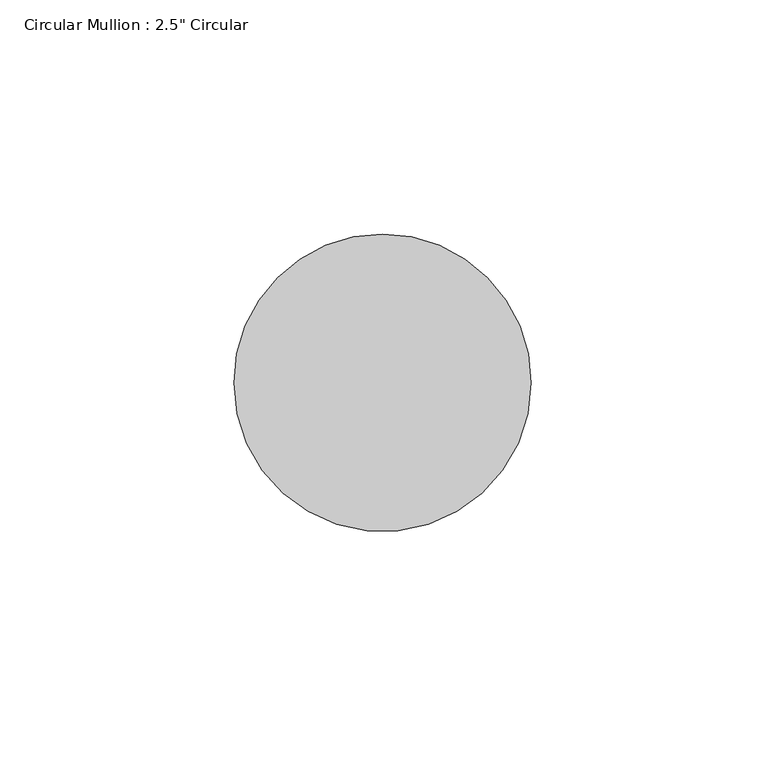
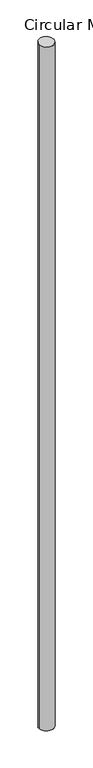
"""IFC4 building model written with IfcOpenShell, lengths in millimetres: member geometry."""

import ifcopenshell
import ifcopenshell.guid

model = None  # the IFC model being written
_history = None  # IfcOwnerHistory: only IFC2X3 demands one
_inside = {}  # id of a spatial element -> (the spatial element, [elements in it])
_under = {}  # id of a project, library or spatial element -> (it, [spatial elements below it])
_declared = {}  # id of a project -> (the project, [libraries it declares])
_typed = {}  # id of a type object -> (the type object, [elements of that type])
_made_of = {}  # id of a material, layer set ... -> (it, [elements and type objects made of it])


def new_model(schema):
    """Start an empty IFC model of exactly this schema.

    Asked for "IFC4X3", IfcOpenShell would pick the latest addendum, in which some entities
    have other attributes; the version numbers below select the first issue.
    IFC2X3 requires an IfcOwnerHistory on every rooted entity: one is made here for all.
    """
    global model, _history
    if schema == "IFC4X3":
        model = ifcopenshell.file(schema_version=(4, 3, 0, 0))
    else:
        model = ifcopenshell.file(schema=schema)
    _inside.clear()
    _under.clear()
    _declared.clear()
    _typed.clear()
    _made_of.clear()
    _history = None
    if model.schema == "IFC2X3":
        org = make("IfcOrganization", Name="unknown")
        user = make(
            "IfcPersonAndOrganization",
            ThePerson=make("IfcPerson", FamilyName="unknown"),
            TheOrganization=org,
        )
        app = make(
            "IfcApplication",
            ApplicationDeveloper=org,
            Version="unknown",
            ApplicationFullName="unknown",
            ApplicationIdentifier="unknown",
        )
        _history = make(
            "IfcOwnerHistory",
            OwningUser=user,
            OwningApplication=app,
            ChangeAction="ADDED",
            CreationDate=0,
        )
    return model


def make(cls, **values):
    """One entity of the class cls with the attributes given. An attribute that is None is left unset."""
    return model.create_entity(
        cls, **{name: value for name, value in values.items() if value is not None}
    )


def rooted(cls, **values):
    """An entity with a GlobalId (a new one), such as an element, a storey or a relation."""
    return make(cls, GlobalId=ifcopenshell.guid.new(), OwnerHistory=_history, **values)


def si_unit(unit_type, name, prefix=None):
    """IfcSIUnit, for example si_unit("LENGTHUNIT", "METRE", prefix="MILLI")."""
    return make("IfcSIUnit", UnitType=unit_type, Prefix=prefix, Name=name)


def assignment(units):
    """IfcUnitAssignment: the units of a project."""
    return None if units is None else make("IfcUnitAssignment", Units=units)


def point(xyz):
    """IfcCartesianPoint."""
    return None if xyz is None else make("IfcCartesianPoint", Coordinates=xyz)


def direction(xyz):
    """IfcDirection."""
    return None if xyz is None else make("IfcDirection", DirectionRatios=xyz)


def frame(location, z_axis=None, x_axis=None):
    """IfcAxis2Placement3D, a coordinate frame: its origin and axes. An axis left out is left unset."""
    return make(
        "IfcAxis2Placement3D",
        Location=point(location),
        Axis=direction(z_axis),
        RefDirection=direction(x_axis),
    )


def origin():
    """The frame at (0, 0, 0) with its axes left unset."""
    return frame((0.0, 0.0, 0.0))


def place(relative_to, where):
    """IfcLocalPlacement: puts the frame where relative to a parent placement (None: the world)."""
    return make(
        "IfcLocalPlacement", PlacementRelTo=relative_to, RelativePlacement=where
    )


def context(
    kind, dimensions, precision=None, world=None, true_north=None, identifier=None
):
    """IfcGeometricRepresentationContext, for example the 3D "Model" context."""
    return make(
        "IfcGeometricRepresentationContext",
        ContextIdentifier=identifier,
        ContextType=kind,
        CoordinateSpaceDimension=dimensions,
        Precision=precision,
        WorldCoordinateSystem=world,
        TrueNorth=true_north,
    )


def project(units=None, contexts=None):
    """IfcProject with its units and contexts."""
    return rooted(
        "IfcProject",
        Name="project",
        RepresentationContexts=contexts,
        UnitsInContext=assignment(units),
    )


def spatial(cls, under=None, at=None, **own):
    """A site, building, storey or space (cls), placed at a placement, below another one or the project."""
    s = rooted(cls, ObjectPlacement=at, **own)
    if under is not None:
        _under.setdefault(under.id(), (under, []))[1].append(s)
    return s


def ellipse_curve(where, semi_axis1, semi_axis2):
    """IfcEllipse in the frame where."""
    return make(
        "IfcEllipse", Position=where, SemiAxis1=semi_axis1, SemiAxis2=semi_axis2
    )


def shape(context_of_items, identifier, shape_type, items):
    """IfcShapeRepresentation: the items that make up one representation, for example the "Body"."""
    return make(
        "IfcShapeRepresentation",
        ContextOfItems=context_of_items,
        RepresentationIdentifier=identifier,
        RepresentationType=shape_type,
        Items=items,
    )


def source(mapping_origin, context_of_items, identifier, shape_type, items):
    """IfcRepresentationMap: a shape defined once, which mapped items show again and again."""
    return make(
        "IfcRepresentationMap",
        MappingOrigin=mapping_origin,
        MappedRepresentation=shape(context_of_items, identifier, shape_type, items),
    )


def transform(
    local_origin,
    x_axis=None,
    y_axis=None,
    z_axis=None,
    scale=None,
    scale2=None,
    scale3=None,
    uniform=True,
):
    """IfcCartesianTransformationOperator3D, or its non-uniform kind. x_axis, y_axis, z_axis: its Axis1, 2, 3."""
    if uniform:
        return make(
            "IfcCartesianTransformationOperator3D",
            Axis1=direction(x_axis),
            Axis2=direction(y_axis),
            LocalOrigin=point(local_origin),
            Scale=scale,
            Axis3=direction(z_axis),
        )
    return make(
        "IfcCartesianTransformationOperator3DnonUniform",
        Axis1=direction(x_axis),
        Axis2=direction(y_axis),
        LocalOrigin=point(local_origin),
        Scale=scale,
        Axis3=direction(z_axis),
        Scale2=scale2,
        Scale3=scale3,
    )


def mapped(mapping_source, mapping_target):
    """IfcMappedItem: shows the shape of a source again, moved by a transform."""
    return make(
        "IfcMappedItem", MappingSource=mapping_source, MappingTarget=mapping_target
    )


def made_of(thing, what):
    """Note that an element or type object is made of a material, layer set ...; save() writes the relation."""
    if what is not None:
        _made_of.setdefault(what.id(), (what, []))[1].append(thing)
    return thing


def element(
    cls,
    number,
    at=None,
    inside=None,
    cuts=None,
    type_object=None,
    material=None,
    context=None,
    identifier="Body",
    shape_type=None,
    held_by="IfcProductDefinitionShape",
    body=None,
    shapes=None,
    **own,
):
    """One element of the class cls, such as IfcWall. Its Tag is "e" and its number.

    at: its placement. inside: the storey or other place that contains it. cuts: it is an
    opening in that element (IfcRelVoidsElement). A single representation is given by context,
    identifier, shape_type and body (its items); several are given by shapes. held_by: the class
    of the entity that holds the representations. save() writes the other relations.
    """
    e = rooted(cls, Tag="e%d" % number, ObjectPlacement=at, **own)
    if body is not None:
        shapes = [shape(context, identifier, shape_type, body)]
    if shapes is not None:
        e.Representation = make(held_by, Representations=shapes)
    if inside is not None:
        _inside.setdefault(inside.id(), (inside, []))[1].append(e)
    if cuts is not None:
        rooted(
            "IfcRelVoidsElement", RelatingBuildingElement=cuts, RelatedOpeningElement=e
        )
    if type_object is not None:
        _typed.setdefault(type_object.id(), (type_object, []))[1].append(e)
    return made_of(e, material)


def aggregate(whole, parts):
    """IfcRelAggregates: a whole, such as a stair, and the parts it consists of."""
    return rooted("IfcRelAggregates", RelatingObject=whole, RelatedObjects=parts)


def save(model, path):
    """Write the relations noted so far, then the file.

    IfcRelAggregates (storeys below a building ...), IfcRelContainedInSpatialStructure (elements
    in a storey), IfcRelDefinesByType, IfcRelAssociatesMaterial and IfcRelDeclares: one each for
    every whole, place, type object, material and project.
    """
    for whole, parts in _under.values():
        aggregate(whole, parts)
    for where, things in _inside.values():
        rooted(
            "IfcRelContainedInSpatialStructure",
            RelatedElements=things,
            RelatingStructure=where,
        )
    for kind, things in _typed.values():
        rooted("IfcRelDefinesByType", RelatedObjects=things, RelatingType=kind)
    for what, things in _made_of.values():
        rooted("IfcRelAssociatesMaterial", RelatedObjects=things, RelatingMaterial=what)
    for by, libraries in _declared.values():
        rooted("IfcRelDeclares", RelatingContext=by, RelatedDefinitions=libraries)
    model.write(path)


def plane_surface(at):
    """IfcPlane: the flat surface through the origin of the frame at, square to its z axis."""
    return make("IfcPlane", Position=at)


def cylinder_surface(at, radius):
    """IfcCylindricalSurface: all points at the distance radius from the z axis of the frame at."""
    return make("IfcCylindricalSurface", Position=at, Radius=radius)


def advanced_brep(points, edges, surfaces, faces):
    """IfcAdvancedBrep: a solid bounded by faces that lie on surfaces and meet in shared edges.

    An edge is (start, end): straight between two places in points (the first is 0);
    or (start, end, curve); or (start, end, curve, False) where it runs against its curve.
    A face is (place in surfaces, loops), or (place, loops, False) where it looks against
    its surface's normal. A loop lists edges by number (the first is 1), with a minus sign
    where the edge is run from its end to its start. The first loop is the outer one.
    """
    corners = [point(p) for p in points]
    vertices = [make("IfcVertexPoint", VertexGeometry=c) for c in corners]
    made = []
    for start, end, *more in edges:
        made.append(
            make(
                "IfcEdgeCurve",
                EdgeStart=vertices[start],
                EdgeEnd=vertices[end],
                EdgeGeometry=more[0] if more else make("IfcPolyline", Points=[corners[start], corners[end]]),
                SameSense=more[1] if len(more) > 1 else True,
            )
        )
    hull = []
    for where, loops, *sense in faces:
        bounds = []
        for j, loop in enumerate(loops):
            ring = [make("IfcOrientedEdge", EdgeElement=made[abs(k) - 1], Orientation=k > 0) for k in loop]
            bounds.append(
                make(
                    "IfcFaceOuterBound" if j == 0 else "IfcFaceBound",
                    Bound=make("IfcEdgeLoop", EdgeList=ring),
                    Orientation=True,
                )
            )
        hull.append(make("IfcAdvancedFace", Bounds=bounds, FaceSurface=surfaces[where], SameSense=sense[0] if sense else True))
    return make("IfcAdvancedBrep", Outer=make("IfcClosedShell", CfsFaces=hull))


def member_7a5e62d4(model_context):
    return source(origin(), model_context, "Body", "AdvancedBrep", [
        advanced_brep(
        [(-63.5, 0.0, -0.3874505), (0.0, 0.0, 0.0), (0.0, 0.0, -3089.9696968), (-63.5, 0.0, -3089.7729318)],
        [
            (0, 1, ellipse_curve(frame((-31.75, 0.0, -0.1937252), z_axis=(0.006093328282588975, 0.05163815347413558, -0.9986472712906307), x_axis=(0.11702893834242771, 0.9917664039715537, 0.05199641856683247)), 31.7930073, 31.75)),
            (1, 2),
            (2, 3, ellipse_curve(frame((-31.75, 0.0, -3089.8713143), z_axis=(0.003095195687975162, 0.04718472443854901, 0.9988813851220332), x_axis=(-0.06538350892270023, -0.9967391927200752, 0.04728613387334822)), 31.7855558, 31.75)),
            (3, 0),
            (1, 0, ellipse_curve(frame((-31.75, 0.0, -0.1937252), z_axis=(0.006093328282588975, 0.05163815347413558, -0.9986472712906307), x_axis=(0.11702893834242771, 0.9917664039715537, 0.05199641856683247)), 31.7930073, 31.75)),
            (3, 2, ellipse_curve(frame((-31.75, 0.0, -3089.8713143), z_axis=(0.003095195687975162, 0.04718472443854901, 0.9988813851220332), x_axis=(-0.06538350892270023, -0.9967391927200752, 0.04728613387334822)), 31.7855558, 31.75)),
        ],
        [
            cylinder_surface(frame((-31.75, 0.0, 0.0), z_axis=(0.0, 0.0, 1.0), x_axis=(1.0, 0.0, 0.0)), 31.75),
            plane_surface(frame((302.6998707, -35.7187382, 0.0), z_axis=(-0.006093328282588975, -0.05163815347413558, 0.9986472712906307), x_axis=(-0.11702893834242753, -0.9917664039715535, -0.05199641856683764))),
            plane_surface(frame((304.1463285, -19.9512112, -3089.9696968), z_axis=(-0.003095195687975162, -0.04718472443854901, -0.9988813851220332), x_axis=(-0.06538350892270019, -0.9967391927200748, 0.047286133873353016))),
        ],
        [
            (0, [[1, 2, 3, 4]]),
            (0, [[5, -4, 6, -2]]),
            (1, [[-1, -5]]),
            (2, [[-6, -3]]),
        ],
    ),
    ])


if __name__ == "__main__":
    model = new_model("IFC4")
    model_context = context("Model", 3, world=origin())
    ifc_project = project(units=[si_unit("LENGTHUNIT", "METRE", prefix="MILLI")], contexts=[model_context])
    site = spatial("IfcSite", under=ifc_project)
    building = spatial("IfcBuilding", under=site)
    placement = place(None, origin())
    member_shape = member_7a5e62d4(model_context)
    element("IfcMember", 1, ObjectType="Circular Mullion : 2.5\" Circular", at=placement, inside=building, context=model_context, shape_type="MappedRepresentation", body=[
        mapped(member_shape, transform((0.0, 0.0, 0.0), x_axis=(1.0, 0.0, 0.0), y_axis=(0.0, 1.0, 0.0), z_axis=(0.0, 0.0, 1.0))),
    ])
    save(model, "model.ifc")
